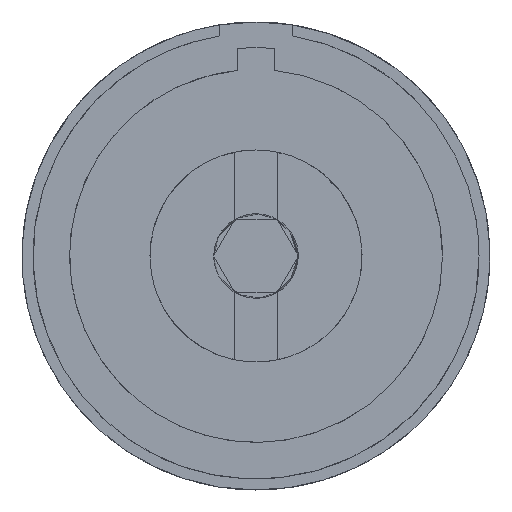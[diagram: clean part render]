
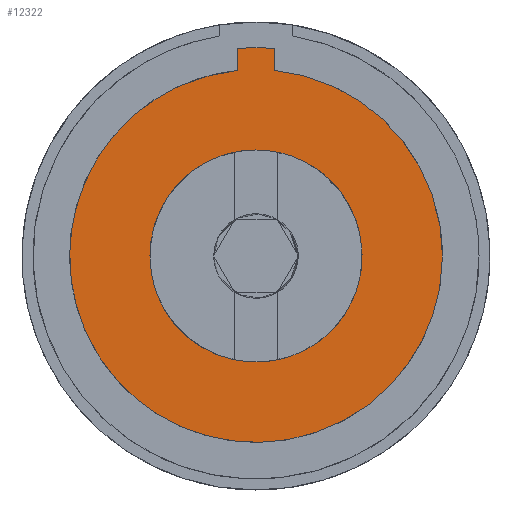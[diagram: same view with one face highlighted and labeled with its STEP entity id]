
A CAD part, front view. The second image highlights one B-rep face of the part: STEP entity #12322.
In plain terms, the highlighted free-form (B-spline) face has degree [1, 1] with [2, 2] control points.
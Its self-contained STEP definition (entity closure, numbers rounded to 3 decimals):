
#203=CARTESIAN_POINT('V33',(12.75,23.0,0.)
   );
#204=VERTEX_POINT('V33',#203);
#205=CARTESIAN_POINT('V31',(1.25,23.0,
   12.689));
#206=VERTEX_POINT('V31',#205);
#207=CARTESIAN_POINT('E46',(12.75,23.0,0.)
   );
#208=CARTESIAN_POINT('E46',(12.75,23.0,
   11.556));
#209=CARTESIAN_POINT('E46',(1.25,23.0,
   12.689));
#217=(BOUNDED_CURVE()B_SPLINE_CURVE(2,(#207,#208,#209),
   .CIRCULAR_ARC.,.F.,.U.)B_SPLINE_CURVE_WITH_KNOTS((3,3),(
   0.771,1.0),.UNSPECIFIED.)CURVE()
   GEOMETRIC_REPRESENTATION_ITEM()RATIONAL_B_SPLINE_CURVE((1.0,
   0.656,0.785))REPRESENTATION_ITEM('E46'));
#218=EDGE_CURVE('E46',#204,#206,#217,.T.);
#255=CARTESIAN_POINT('V29',(1.25,23.0,
   14.195));
#256=VERTEX_POINT('V29',#255);
#257=CARTESIAN_POINT('E41',(1.25,23.0,
   12.689));
#258=CARTESIAN_POINT('E41',(1.25,23.0,
   14.195));
#259=QUASI_UNIFORM_CURVE('E41',1,(#257,#258),.POLYLINE_FORM.,.F.,.U.
   );
#260=EDGE_CURVE('E41',#206,#256,#259,.T.);
#12206=CARTESIAN_POINT('V25',(-1.25,23.0,
   12.689));
#12207=VERTEX_POINT('V25',#12206);
#12208=CARTESIAN_POINT('E48',(-1.25,23.0,
   12.689));
#12209=CARTESIAN_POINT('E48',(-3.99,23.0,
   12.419));
#12210=CARTESIAN_POINT('E48',(-6.375,23.0,
   11.042));
#12211=CARTESIAN_POINT('E48',(-25.5,23.0,0.)
   );
#12212=CARTESIAN_POINT('E48',(-6.375,23.0,
   -11.042));
#12213=CARTESIAN_POINT('E48',(12.75,23.0,
   -22.084));
#12214=CARTESIAN_POINT('E48',(12.75,23.0,0.)
   );
#12222=(BOUNDED_CURVE()B_SPLINE_CURVE(2,(#12208,#12209,#12210,
   #12211,#12212,#12213,#12214),.CIRCULAR_ARC.,.F.,.U.)
   B_SPLINE_CURVE_WITH_KNOTS((3,2,2,3),(0.0,0.074,
   0.407,0.741),.UNSPECIFIED.)CURVE()
   GEOMETRIC_REPRESENTATION_ITEM()RATIONAL_B_SPLINE_CURVE((
   0.827,0.889,1.0,0.5,1.0,
   0.5,1.0))REPRESENTATION_ITEM('E48'));
#12223=EDGE_CURVE('E48',#12207,#204,#12222,.T.);
#12239=CARTESIAN_POINT('V27',(-1.25,23.0,
   14.195));
#12240=VERTEX_POINT('V27',#12239);
#12241=CARTESIAN_POINT('E37',(-1.25,23.0,
   14.195));
#12242=CARTESIAN_POINT('E37',(-1.25,23.0,
   12.689));
#12243=QUASI_UNIFORM_CURVE('E37',1,(#12241,#12242),.POLYLINE_FORM.,
   .F.,.U.);
#12244=EDGE_CURVE('E37',#12240,#12207,#12243,.T.);
#12270=CARTESIAN_POINT('E43',(1.25,23.0,
   14.195));
#12271=CARTESIAN_POINT('E43',(0.,23.0,14.305)
   );
#12272=CARTESIAN_POINT('E43',(-1.25,23.0,
   14.195));
#12280=(BOUNDED_CURVE()B_SPLINE_CURVE(2,(#12270,#12271,#12272),
   .CIRCULAR_ARC.,.F.,.U.)CURVE()GEOMETRIC_REPRESENTATION_ITEM()
   QUASI_UNIFORM_CURVE()RATIONAL_B_SPLINE_CURVE((1.0,
   0.996,1.0))REPRESENTATION_ITEM('E43'));
#12281=EDGE_CURVE('E43',#256,#12240,#12280,.T.);
#12289=CARTESIAN_POINT('F46',(13.587,23.0,
   -13.587));
#12290=CARTESIAN_POINT('F46',(13.587,23.0,
   14.489));
#12291=CARTESIAN_POINT('F46',(-13.587,23.0,
   -13.587));
#12292=CARTESIAN_POINT('F46',(-13.587,23.0,
   14.489));
#12293=QUASI_UNIFORM_SURFACE('F46',1,1,((#12289,#12291),(#12290,
   #12292)),.PLANE_SURF.,.F.,.F.,.U.);
#12294=ORIENTED_EDGE('E43',*,*,#12281,.T.);
#12295=ORIENTED_EDGE('E37',*,*,#12244,.T.);
#12296=ORIENTED_EDGE('E48',*,*,#12223,.T.);
#12297=ORIENTED_EDGE('E46',*,*,#218,.T.);
#12298=ORIENTED_EDGE('E41',*,*,#260,.T.);
#12299=EDGE_LOOP('F46',(#12294,#12295,#12296,#12297,#12298));
#12300=FACE_OUTER_BOUND('F46',#12299,.T.);
#12301=CARTESIAN_POINT('V75',(0.,23.0,7.25)
   );
#12302=VERTEX_POINT('V75',#12301);
#12303=CARTESIAN_POINT('E110',(0.,23.0,7.25)
   );
#12304=CARTESIAN_POINT('E110',(12.557,23.0,
   7.25));
#12305=CARTESIAN_POINT('E110',(6.279,23.0,
   -3.625));
#12306=CARTESIAN_POINT('E110',(0.,23.0,-14.5)
   );
#12307=CARTESIAN_POINT('E110',(-6.279,23.0,
   -3.625));
#12308=CARTESIAN_POINT('E110',(-12.557,23.0,
   7.25));
#12309=CARTESIAN_POINT('E110',(0.,23.0,7.25)
   );
#12317=(BOUNDED_CURVE()B_SPLINE_CURVE(2,(#12303,#12304,#12305,
   #12306,#12307,#12308,#12309),.CIRCULAR_ARC.,.T.,.U.)
   B_SPLINE_CURVE_WITH_KNOTS((3,2,2,3),(0.0,0.333,
   0.667,1.0),.UNSPECIFIED.)CURVE()
   GEOMETRIC_REPRESENTATION_ITEM()RATIONAL_B_SPLINE_CURVE((1.0,
   0.5,1.0,0.5,1.0,0.5,1.0)
   )REPRESENTATION_ITEM('E110'));
#12318=EDGE_CURVE('E110',#12302,#12302,#12317,.T.);
#12319=ORIENTED_EDGE('E110',*,*,#12318,.T.);
#12320=EDGE_LOOP('F46',(#12319));
#12321=FACE_BOUND('F46',#12320,.T.);
#12322=ADVANCED_FACE('F46',(#12300,#12321),#12293,.T.);
